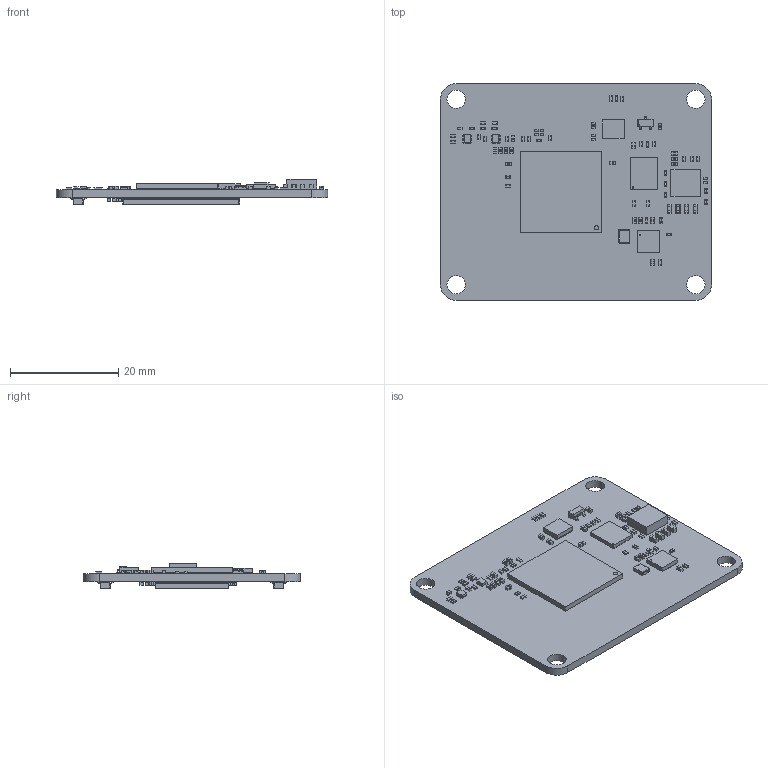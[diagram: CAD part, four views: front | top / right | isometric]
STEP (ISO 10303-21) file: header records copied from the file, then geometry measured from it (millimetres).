
FILE_DESCRIPTION(('KiCad electronic assembly'),'2;1');
FILE_NAME('xlm2101.step','2025-07-17T15:58:58',('Pcbnew'),('Kicad'), 'Open CASCADE STEP processor 7.6','KiCad to STEP converter','Unknown' );
FILE_SCHEMA(('AUTOMOTIVE_DESIGN { 1 0 10303 214 1 1 1 1 }'));
Length unit declared in the file: millimetre
Products named in the file (1441): xlm2101 1; TOSHIBA_SSM6N35AFE_LF_ES6; Lead1; Lead6; Lead2; Lead3; Lead5; Lead4; Mold; R_0402_1005Metric; Solid1; Solid2; Solid3; LED_XZxx68x-2; BGA-324_15.0x15.0mm_Layout18x18_P0.8mm_Ball0.5mm_Pad0.4mm_NSMD; MPS_MPM54322; xlm2101 1.10.1; C_0402_1005Metric; SN74AVC4T774_RGY0016A; FRAME; SOLID; BODY; PIN1_AREA; SOT-23; C_0603_1608Metric; FB_0402_1005Metric; WINBOND_W25Q128JVPIQ; SI5338_QFN24_SIL; ECS-250-18-36-AGM-TR; HIROSE_DF40C-60DP; DF40C-40DP-0.4V.1; DF40C-100DP; DF40C-100DP-0.4V; xlm2101_PCB
Assembly tree (1540 placements, depth 4):
  xlm2101 1
    TOSHIBA_SSM6N35AFE_LF_ES6  x2
      Lead1
      Lead6
      Lead2
      Lead3
      Lead5
      Lead4
      Mold
    R_0402_1005Metric  x34
      Solid1
      Solid2
      Solid2
      Solid3
    LED_XZxx68x-2  x3
    BGA-324_15.0x15.0mm_Layout18x18_P0.8mm_Ball0.5mm_Pad0.4mm_NSMD
    MPS_MPM54322
      xlm2101 1.10.1
    C_0402_1005Metric  x58
    SN74AVC4T774_RGY0016A
      FRAME
        SOLID
        SOLID
        SOLID
        SOLID
        SOLID
        SOLID
        SOLID
        SOLID
        SOLID
        SOLID
        SOLID
        SOLID
        SOLID
        SOLID
        SOLID
        SOLID
        SOLID
        SOLID
        SOLID
        SOLID
        SOLID
      BODY
      PIN1_AREA
    SOT-23
    C_0603_1608Metric  x4
    FB_0402_1005Metric  x4
    WINBOND_W25Q128JVPIQ
    SI5338_QFN24_SIL
    ECS-250-18-36-AGM-TR
    HIROSE_DF40C-60DP
      DF40C-40DP-0.4V.1
      DF40C-40DP-0.4V.1
      DF40C-40DP-0.4V.1
      DF40C-40DP-0.4V.1
      DF40C-40DP-0.4V.1
      DF40C-40DP-0.4V.1
      DF40C-40DP-0.4V.1
      DF40C-40DP-0.4V.1
      DF40C-40DP-0.4V.1
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Bounding box: 50 x 40 x 4.62 mm (x, y, z)
Volume: 3326.5 mm3; surface area: 6182.3 mm2
Topology: 485 solids, 3196 shells, 8216 faces, 29523 edges, 24827 vertices
Faces by surface type: bspline 4963, plane 2951, cylinder 202, sphere 100
Full cylindrical faces by diameter (mm): 0.199 x1, 0.8 x1, 3.4 x4
Entity records: 168147 total; most frequent: CARTESIAN_POINT 62037, ORIENTED_EDGE 18870, EDGE_CURVE 13765, VERTEX_POINT 11947, B_SPLINE_CURVE_WITH_KNOTS 8853, DIRECTION 8153, FACE_BOUND 3532, EDGE_LOOP 3532
